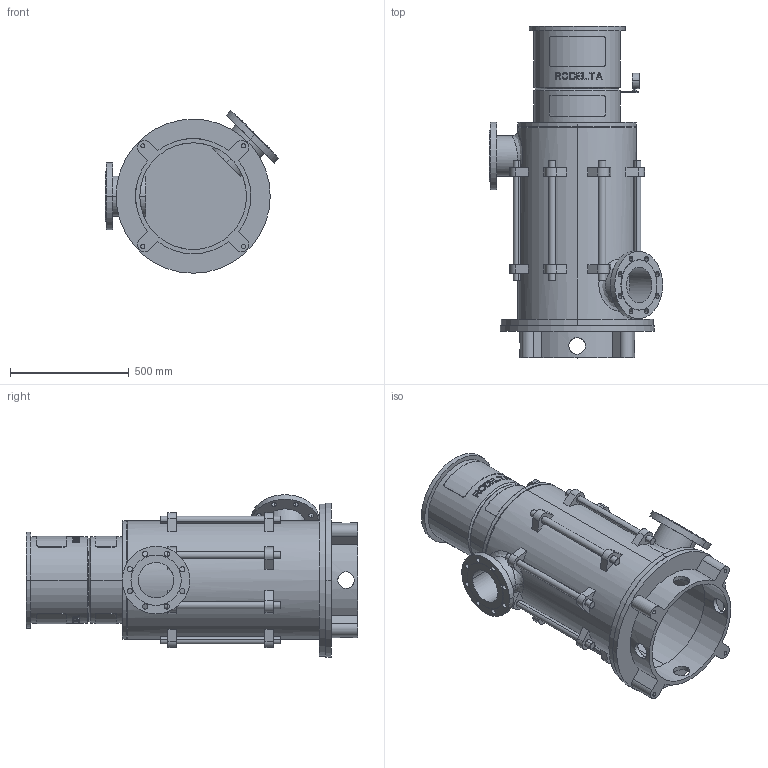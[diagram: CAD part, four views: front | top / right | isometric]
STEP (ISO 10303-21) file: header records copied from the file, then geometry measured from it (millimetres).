
FILE_DESCRIPTION((''),'2;1');
FILE_NAME('LS6_3TR_0GR_TOT_30KW','2023-08-15T',('Lyritlocal'),(''),'PRO/ENGINEER BY PARAMETRIC TECHNOLOGY CORPORATION, 2016360','PRO/ENGINEER BY PARAMETRIC TECHNOLOGY CORPORATION, 2016360','');
FILE_SCHEMA(('CONFIG_CONTROL_DESIGN'));
Length unit declared in the file: millimetre
Products named in the file (1): LS6_3TR_0GR_TOT_30KW
Bounding box: 730.27 x 1399 x 685.27 mm (x, y, z)
Volume: 43806537.5 mm3; surface area: 5935224.5 mm2
Topology: 3 solids, 7 shells, 684 faces, 1767 edges, 1174 vertices
Faces by surface type: plane 422, cylinder 242, cone 12, bspline 8
Entity records: 22543 total; most frequent: CARTESIAN_POINT 5931, ORIENTED_EDGE 3518, DIRECTION 3273, EDGE_CURVE 1767, AXIS2_PLACEMENT_3D 1237, VERTEX_POINT 1174, EDGE_LOOP 829, VECTOR 799
